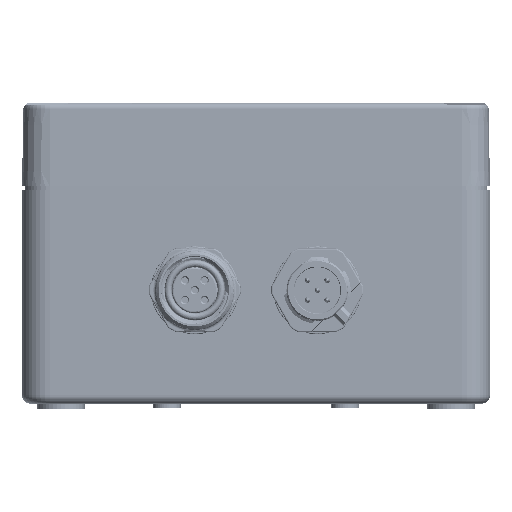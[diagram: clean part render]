
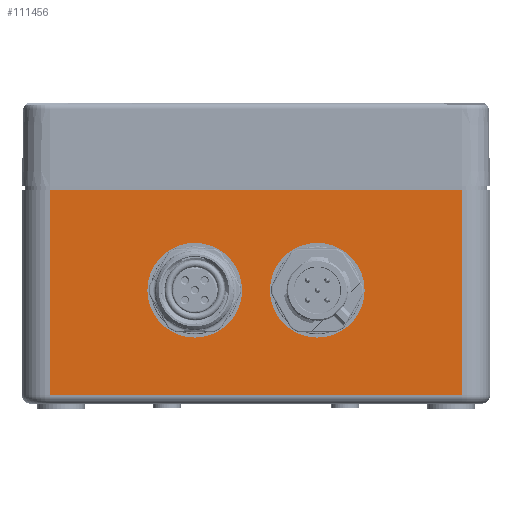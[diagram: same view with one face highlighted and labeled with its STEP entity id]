
A CAD part, front view. The second image highlights one B-rep face of the part: STEP entity #111456.
In plain terms, the highlighted planar face has unit normal (0, -1, 0).
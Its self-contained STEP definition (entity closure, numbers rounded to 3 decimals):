
#3731 = CARTESIAN_POINT ( 'NONE',  ( 74., -5., 26.853 ) ) ;
#7583 = ORIENTED_EDGE ( 'NONE', *, *, #384219, .F. ) ;
#9391 = CARTESIAN_POINT ( 'NONE',  ( 74., -5., 0. ) ) ;
#11582 = DIRECTION ( 'NONE',  ( -1., 0., 0. ) ) ;
#15689 = CARTESIAN_POINT ( 'NONE',  ( 0., -5., -9.947 ) ) ;
#16244 = DIRECTION ( 'NONE',  ( 0., -1., 0. ) ) ;
#20647 = ORIENTED_EDGE ( 'NONE', *, *, #385313, .T. ) ;
#28860 = DIRECTION ( 'NONE',  ( 0., 1., 0. ) ) ;
#29086 = DIRECTION ( 'NONE',  ( 0., -1., 0. ) ) ;
#35581 = CARTESIAN_POINT ( 'NONE',  ( 26., -5., 0.41 ) ) ;
#35865 = VERTEX_POINT ( 'NONE', #76461 ) ;
#47804 = CARTESIAN_POINT ( 'NONE',  ( -5., -5., 26.853 ) ) ;
#50180 = CARTESIAN_POINT ( 'NONE',  ( 48., -5., 0.41 ) ) ;
#62666 = DIRECTION ( 'NONE',  ( -1., 0., 0. ) ) ;
#76461 = CARTESIAN_POINT ( 'NONE',  ( 0., -5., -9.947 ) ) ;
#85816 = VERTEX_POINT ( 'NONE', #218363 ) ;
#88898 = VECTOR ( 'NONE', #450337, 1000. ) ;
#88902 = CARTESIAN_POINT ( 'NONE',  ( 0., -5., 0. ) ) ;
#102576 = AXIS2_PLACEMENT_3D ( 'NONE', #158532, #445369, #343963 ) ;
#103400 = ORIENTED_EDGE ( 'NONE', *, *, #415413, .F. ) ;
#111456 = ADVANCED_FACE ( 'NONE', ( #433675, #207293, #361346 ), #465058, .F. ) ;
#114383 = VERTEX_POINT ( 'NONE', #35581 ) ;
#118764 = EDGE_CURVE ( 'NONE', #35865, #85816, #345749, .T. ) ;
#125991 = EDGE_CURVE ( 'NONE', #433583, #35865, #276691, .T. ) ;
#127241 = CIRCLE ( 'NONE', #396547, 8.5 ) ;
#137216 = ORIENTED_EDGE ( 'NONE', *, *, #232984, .F. ) ;
#152318 = CARTESIAN_POINT ( 'NONE',  ( 26., -5., 17.41 ) ) ;
#157683 = CIRCLE ( 'NONE', #219308, 8.5 ) ;
#158532 = CARTESIAN_POINT ( 'NONE',  ( 48., -5., 8.91 ) ) ;
#158704 = VERTEX_POINT ( 'NONE', #152318 ) ;
#178234 = EDGE_CURVE ( 'NONE', #468679, #433583, #377879, .T. ) ;
#179997 = CARTESIAN_POINT ( 'NONE',  ( 0., -5., 26.853 ) ) ;
#194713 = DIRECTION ( 'NONE',  ( 0., 0., -1. ) ) ;
#201824 = CARTESIAN_POINT ( 'NONE',  ( 26., -5., 8.91 ) ) ;
#205758 = VECTOR ( 'NONE', #346616, 1000. ) ;
#207293 = FACE_OUTER_BOUND ( 'NONE', #230519, .T. ) ;
#209917 = CARTESIAN_POINT ( 'NONE',  ( 48., -5., 8.91 ) ) ;
#212407 = VECTOR ( 'NONE', #11582, 1000. ) ;
#218363 = CARTESIAN_POINT ( 'NONE',  ( 74., -5., -9.947 ) ) ;
#219308 = AXIS2_PLACEMENT_3D ( 'NONE', #209917, #29086, #472437 ) ;
#230519 = EDGE_LOOP ( 'NONE', ( #271368, #308759, #421912, #20647 ) ) ;
#232984 = EDGE_CURVE ( 'NONE', #286676, #274586, #410427, .T. ) ;
#238162 = EDGE_LOOP ( 'NONE', ( #137216, #7583 ) ) ;
#252204 = EDGE_LOOP ( 'NONE', ( #279184, #103400 ) ) ;
#265021 = AXIS2_PLACEMENT_3D ( 'NONE', #281871, #274777, #421778 ) ;
#271368 = ORIENTED_EDGE ( 'NONE', *, *, #178234, .T. ) ;
#274586 = VERTEX_POINT ( 'NONE', #462932 ) ;
#274777 = DIRECTION ( 'NONE',  ( 0., -1., 0. ) ) ;
#276691 = LINE ( 'NONE', #88902, #205758 ) ;
#279184 = ORIENTED_EDGE ( 'NONE', *, *, #431103, .F. ) ;
#281871 = CARTESIAN_POINT ( 'NONE',  ( 26., -5., 8.91 ) ) ;
#286676 = VERTEX_POINT ( 'NONE', #50180 ) ;
#308759 = ORIENTED_EDGE ( 'NONE', *, *, #125991, .T. ) ;
#309484 = VECTOR ( 'NONE', #420493, 1000. ) ;
#339475 = LINE ( 'NONE', #9391, #88898 ) ;
#343963 = DIRECTION ( 'NONE',  ( 0., 0., -1. ) ) ;
#345749 = LINE ( 'NONE', #15689, #309484 ) ;
#346616 = DIRECTION ( 'NONE',  ( 0., 0., -1. ) ) ;
#351078 = AXIS2_PLACEMENT_3D ( 'NONE', #363763, #28860, #62666 ) ;
#361346 = FACE_BOUND ( 'NONE', #252204, .T. ) ;
#363763 = CARTESIAN_POINT ( 'NONE',  ( 0., -5., 0. ) ) ;
#377879 = LINE ( 'NONE', #47804, #212407 ) ;
#384219 = EDGE_CURVE ( 'NONE', #274586, #286676, #157683, .T. ) ;
#385313 = EDGE_CURVE ( 'NONE', #85816, #468679, #339475, .T. ) ;
#396547 = AXIS2_PLACEMENT_3D ( 'NONE', #201824, #16244, #194713 ) ;
#410427 = CIRCLE ( 'NONE', #102576, 8.5 ) ;
#415413 = EDGE_CURVE ( 'NONE', #158704, #114383, #472725, .T. ) ;
#420493 = DIRECTION ( 'NONE',  ( 1., 0., 0. ) ) ;
#421778 = DIRECTION ( 'NONE',  ( 0., 0., -1. ) ) ;
#421912 = ORIENTED_EDGE ( 'NONE', *, *, #118764, .T. ) ;
#431103 = EDGE_CURVE ( 'NONE', #114383, #158704, #127241, .T. ) ;
#433583 = VERTEX_POINT ( 'NONE', #179997 ) ;
#433675 = FACE_BOUND ( 'NONE', #238162, .T. ) ;
#445369 = DIRECTION ( 'NONE',  ( 0., -1., 0. ) ) ;
#450337 = DIRECTION ( 'NONE',  ( 0., 0., 1. ) ) ;
#462932 = CARTESIAN_POINT ( 'NONE',  ( 48., -5., 17.41 ) ) ;
#465058 = PLANE ( 'NONE',  #351078 ) ;
#468679 = VERTEX_POINT ( 'NONE', #3731 ) ;
#472437 = DIRECTION ( 'NONE',  ( 0., 0., -1. ) ) ;
#472725 = CIRCLE ( 'NONE', #265021, 8.5 ) ;
